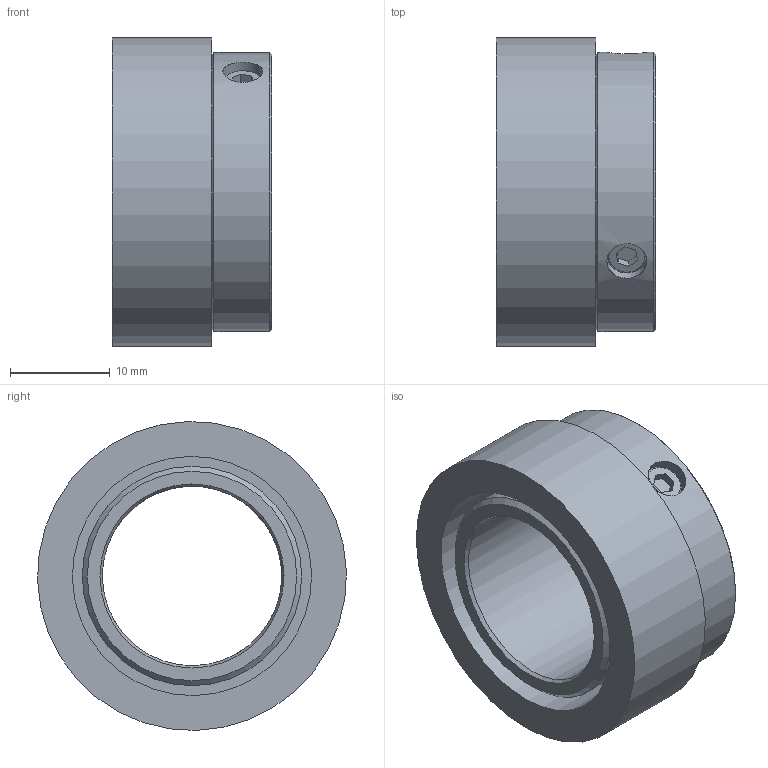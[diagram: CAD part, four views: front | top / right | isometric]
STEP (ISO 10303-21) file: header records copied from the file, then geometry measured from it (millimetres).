
FILE_DESCRIPTION (( 'STEP AP203' ), '1' );
FILE_NAME ('8.RI20.031.1800.111.STEP', '2013-07-30T11:45:32', ( 'Hodot' ), ( '' ), 'SwSTEP 2.0', 'SolidWorks 2012', '' );
FILE_SCHEMA (( 'CONFIG_CONTROL_DESIGN' ));
Length unit declared in the file: millimetre
Products named in the file (1): 8.RI20.031.1800.111
Bounding box: 16 x 30.99 x 30.99 mm (x, y, z)
Volume: 6288.6 mm3; surface area: 5297.8 mm2
Topology: 4 solids, 4 shells, 47 faces, 107 edges, 70 vertices
Faces by surface type: plane 24, cylinder 13, cone 10
Full cylindrical faces by diameter (mm): 4 x4, 18 x1, 22 x1, 24 x1, 28 x1, 31 x1
Entity records: 1425 total; most frequent: CARTESIAN_POINT 414, DIRECTION 192, ORIENTED_EDGE 156, EDGE_CURVE 78, AXIS2_PLACEMENT_3D 78, EDGE_LOOP 76, VERTEX_POINT 60, FACE_OUTER_BOUND 56
